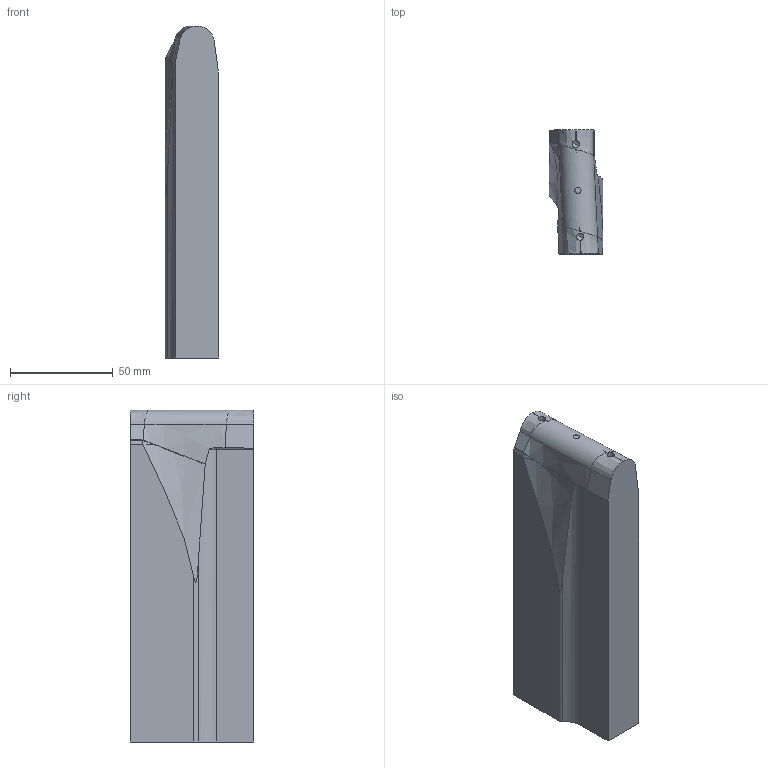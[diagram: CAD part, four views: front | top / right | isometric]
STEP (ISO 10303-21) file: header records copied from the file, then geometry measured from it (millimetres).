
FILE_DESCRIPTION(('CATIA V5 STEP Exchange','CAx-IF Rec.Pracs.--- Model Styling and Organization---1.5--- 2016-08-15','CAx-IF Rec.Pracs.---Supplemental Geometry---1.0---2011-11-01','CAx-IF Rec.Pracs.--- Composite Materials ---1.1---2010-07-15','CAx-IF Rec.Pracs.---External References---2.1---2005-01-19'),'2;1');
FILE_NAME('E:\WAT\Sprezarka\122_00_00_Tlocznik2\Tlocznik2_KPL\Tlocznik2_stp\122_03_50_Stempel.stp','2023-08-01T08:40:10+00:00',('none'),('none'),'CATIA Version 5-6 Release 2022 SP3','CATIA V5 STEP AP214 v2','none');
FILE_SCHEMA(('AUTOMOTIVE_DESIGN { 1 0 10303 214 1 1 1 1 }'));
Length unit declared in the file: millimetre
Products named in the file (1): 122_03_50_Stempel
Bounding box: 26 x 60 x 161.3 mm (x, y, z)
Volume: 203569 mm3; surface area: 29555.1 mm2
Topology: 1 solids, 1 shells, 65 faces, 228 edges, 156 vertices
Faces by surface type: cylinder 15, bspline 14, extrusion 13, plane 13, cone 8, torus 2
Entity records: 3269 total; most frequent: CARTESIAN_POINT 1588, ORIENTED_EDGE 426, EDGE_CURVE 213, DIRECTION 157, VERTEX_POINT 153, B_SPLINE_CURVE_WITH_KNOTS 126, VECTOR 72, EDGE_LOOP 68
